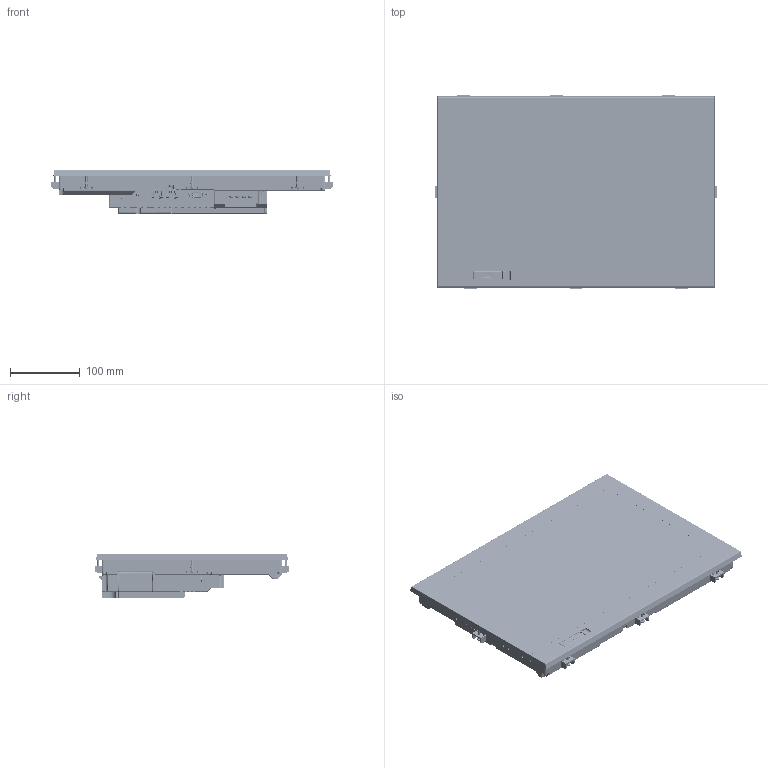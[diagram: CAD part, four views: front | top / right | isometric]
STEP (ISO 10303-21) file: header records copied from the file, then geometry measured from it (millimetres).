
FILE_DESCRIPTION((''),'2;1');
FILE_NAME('GT3715W_ASM_5_ASM','2025-04-23T11:34:25',('TQ65592'),(''),'CREO PARAMETRIC BY PTC INC, 2022281','CREO PARAMETRIC BY PTC INC, 2022281','');
FILE_SCHEMA(('CONFIG_CONTROL_DESIGN'));
Products named in the file (30): GT3715W_1_2; COVER_1_1; COVER_2_1; COVER_3_2; COVER_4_1; TORITUKE_1-1_1_1; TORITUKE_1-1_1_2; TORITUKE_1-1_1_ASM; TORITUKE_1-2_1_1; TORITUKE_1-2_1_2; TORITUKE_1-2_1_ASM; TORITUKE_1-3_1_1; TORITUKE_1-3_1_2; TORITUKE_1-3_1_ASM; TORITUKE_1-4_1_1; TORITUKE_1-4_1_2; TORITUKE_1-4_1_ASM; TORITUKE_1-5_1_1; TORITUKE_1-5_1_2; TORITUKE_1-5_1_ASM; TORITUKE_1-6_1_1; TORITUKE_1-6_1_2; TORITUKE_1-6_1_ASM; TORITUKE_1-7_1_1; TORITUKE_1-7_1_2; TORITUKE_1-7_1_ASM; TORITUKE_1-8_1_1; TORITUKE_1-8_1_2; TORITUKE_1-8_1_ASM; GT3715W_ASM_5_ASM
Assembly tree (29 placements, depth 3):
  GT3715W_ASM_5_ASM
    GT3715W_1_2
    COVER_1_1
    COVER_2_1
    COVER_3_2
    COVER_4_1
    TORITUKE_1-1_1_ASM
      TORITUKE_1-1_1_1
      TORITUKE_1-1_1_2
    TORITUKE_1-2_1_ASM
      TORITUKE_1-2_1_1
      TORITUKE_1-2_1_2
    TORITUKE_1-3_1_ASM
      TORITUKE_1-3_1_1
      TORITUKE_1-3_1_2
    TORITUKE_1-4_1_ASM
      TORITUKE_1-4_1_1
      TORITUKE_1-4_1_2
    TORITUKE_1-5_1_ASM
      TORITUKE_1-5_1_1
      TORITUKE_1-5_1_2
    TORITUKE_1-6_1_ASM
      TORITUKE_1-6_1_1
      TORITUKE_1-6_1_2
    TORITUKE_1-7_1_ASM
      TORITUKE_1-7_1_1
      TORITUKE_1-7_1_2
    TORITUKE_1-8_1_ASM
      TORITUKE_1-8_1_1
      TORITUKE_1-8_1_2
Bounding box: 402.7 x 279.2 x 63 mm (x, y, z)
Volume: 3871887.8 mm3; surface area: 372360.2 mm2
Topology: 21 solids, 23 shells, 11509 faces, 31621 edges, 20552 vertices
Faces by surface type: plane 6833, cylinder 3441, extrusion 321, bspline 312, torus 279, sphere 166, cone 157
Entity records: 390803 total; most frequent: CARTESIAN_POINT 94972, ORIENTED_EDGE 62862, DIRECTION 59885, EDGE_CURVE 31431, VECTOR 22137, LINE 21816, VERTEX_POINT 20548, AXIS2_PLACEMENT_3D 18874
